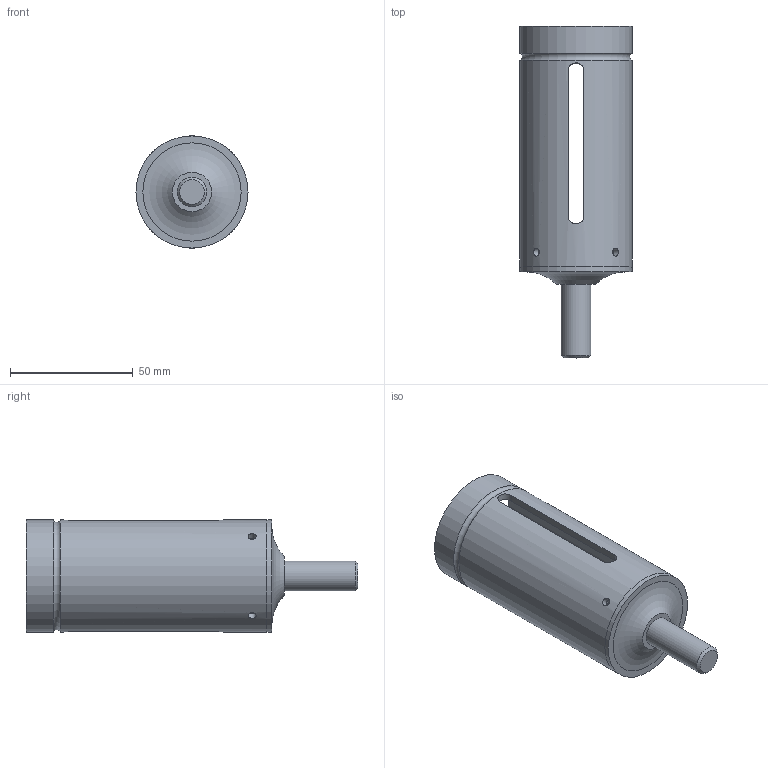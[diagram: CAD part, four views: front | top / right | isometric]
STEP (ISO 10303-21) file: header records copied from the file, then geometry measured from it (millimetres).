
FILE_DESCRIPTION(/* description */ (''),/* implementation_level */ '2;1');
FILE_NAME(/* name */ 'C:\Evgeny\Noga Works\_Noga MT Brush\solidcam\Sleeves for Face Brush D40 UF5540.stp',/* time_stamp */ '2025-03-23T10:17:44+02:00',/* author */ ('evgeny'),/* organization */ (''),/* preprocessor_version */ 'ST-DEVELOPER v20',/* originating_system */ 'Autodesk Inventor 2022',/* authorisation */ '');
FILE_SCHEMA (('AUTOMOTIVE_DESIGN { 1 0 10303 214 3 1 1 }'));
Length unit declared in the file: millimetre
Products named in the file (1): Sleeves for Face Brush D60 UF5540
Bounding box: 45.6 x 135 x 45.6 mm (x, y, z)
Volume: 59428.9 mm3; surface area: 33846.3 mm2
Topology: 3 solids, 3 shells, 32 faces, 80 edges, 56 vertices
Faces by surface type: cylinder 16, plane 12, torus 2, cone 2
Full cylindrical faces by diameter (mm): 3.242 x5, 12 x2, 40 x2, 45.6 x3
Entity records: 1433 total; most frequent: CARTESIAN_POINT 614, ORIENTED_EDGE 158, DIRECTION 142, EDGE_CURVE 79, VERTEX_POINT 56, AXIS2_PLACEMENT_3D 56, EDGE_LOOP 51, FACE_OUTER_BOUND 32
